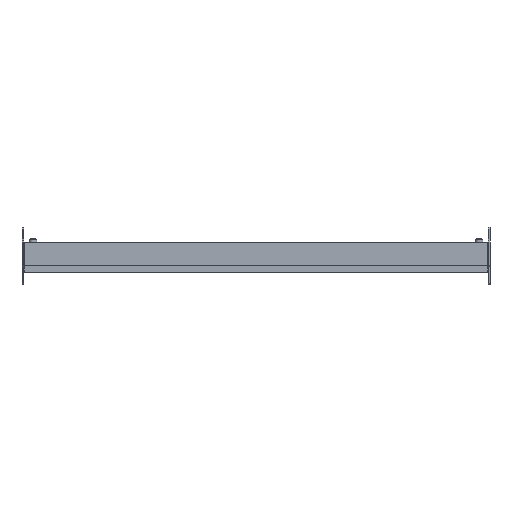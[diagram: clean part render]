
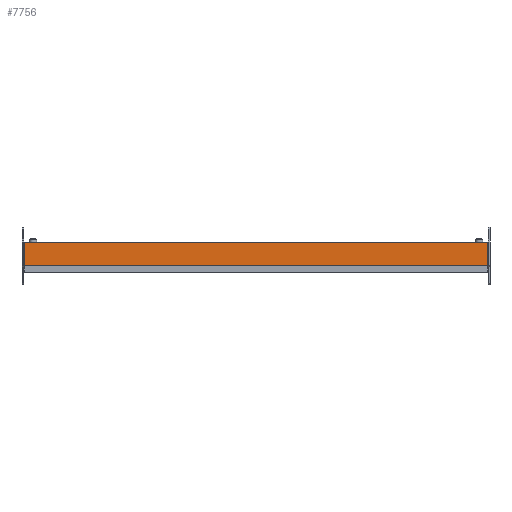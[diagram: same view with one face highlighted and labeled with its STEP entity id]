
A CAD part, top view. The second image highlights one B-rep face of the part: STEP entity #7756.
In plain terms, the highlighted planar face has unit normal (0, 0, 1).
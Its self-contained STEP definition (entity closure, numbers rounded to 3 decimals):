
#649 = VECTOR ( 'NONE', #2366, 1000. ) ;
#851 = ORIENTED_EDGE ( 'NONE', *, *, #6297, .T. ) ;
#1062 = LINE ( 'NONE', #14408, #13914 ) ;
#1121 = VECTOR ( 'NONE', #14932, 1000. ) ;
#1926 = DIRECTION ( 'NONE',  ( -1., 0., 0. ) ) ;
#2282 = DIRECTION ( 'NONE',  ( 0., 1., 0. ) ) ;
#2366 = DIRECTION ( 'NONE',  ( 0., -1., 0. ) ) ;
#2568 = VERTEX_POINT ( 'NONE', #6649 ) ;
#2684 = CARTESIAN_POINT ( 'NONE',  ( 2760.64, 1663.047, 397.111 ) ) ;
#2694 = ORIENTED_EDGE ( 'NONE', *, *, #6507, .F. ) ;
#2920 = CARTESIAN_POINT ( 'NONE',  ( 2059.64, 1663.047, 397.111 ) ) ;
#3104 = CARTESIAN_POINT ( 'NONE',  ( 2059.64, 1627.547, 397.111 ) ) ;
#3285 = VERTEX_POINT ( 'NONE', #2920 ) ;
#4970 = CARTESIAN_POINT ( 'NONE',  ( 2059.64, 1603.526, 397.111 ) ) ;
#5005 = VECTOR ( 'NONE', #1926, 1000. ) ;
#5520 = EDGE_LOOP ( 'NONE', ( #8025, #851, #9584, #2694 ) ) ;
#6297 = EDGE_CURVE ( 'NONE', #16872, #3285, #14752, .T. ) ;
#6507 = EDGE_CURVE ( 'NONE', #2568, #8440, #9781, .T. ) ;
#6649 = CARTESIAN_POINT ( 'NONE',  ( 2760.64, 1627.547, 397.111 ) ) ;
#7756 = ADVANCED_FACE ( 'NONE', ( #11696 ), #13182, .F. ) ;
#7785 = EDGE_CURVE ( 'NONE', #2568, #16872, #1062, .T. ) ;
#8025 = ORIENTED_EDGE ( 'NONE', *, *, #7785, .T. ) ;
#8033 = CARTESIAN_POINT ( 'NONE',  ( 2056.14, 1663.047, 397.111 ) ) ;
#8440 = VERTEX_POINT ( 'NONE', #3104 ) ;
#9082 = LINE ( 'NONE', #4970, #649 ) ;
#9165 = DIRECTION ( 'NONE',  ( -1., 0., 0. ) ) ;
#9584 = ORIENTED_EDGE ( 'NONE', *, *, #16325, .T. ) ;
#9781 = LINE ( 'NONE', #15096, #5005 ) ;
#11531 = CARTESIAN_POINT ( 'NONE',  ( 2056.14, 1630.347, 397.111 ) ) ;
#11696 = FACE_OUTER_BOUND ( 'NONE', #5520, .T. ) ;
#13182 = PLANE ( 'NONE',  #16721 ) ;
#13914 = VECTOR ( 'NONE', #2282, 1000. ) ;
#14230 = DIRECTION ( 'NONE',  ( 0., 0., -1. ) ) ;
#14408 = CARTESIAN_POINT ( 'NONE',  ( 2760.64, 1603.526, 397.111 ) ) ;
#14752 = LINE ( 'NONE', #8033, #1121 ) ;
#14932 = DIRECTION ( 'NONE',  ( -1., 0., 0. ) ) ;
#15096 = CARTESIAN_POINT ( 'NONE',  ( 2056.14, 1627.547, 397.111 ) ) ;
#16325 = EDGE_CURVE ( 'NONE', #3285, #8440, #9082, .T. ) ;
#16721 = AXIS2_PLACEMENT_3D ( 'NONE', #11531, #14230, #9165 ) ;
#16872 = VERTEX_POINT ( 'NONE', #2684 ) ;
